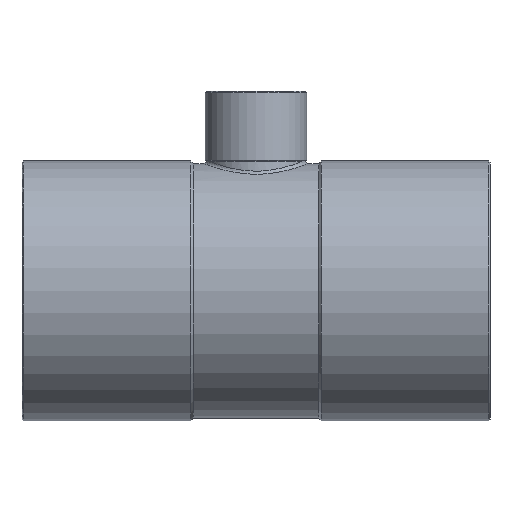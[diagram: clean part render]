
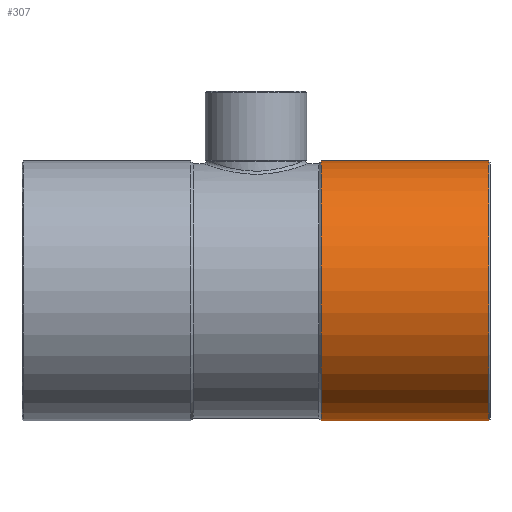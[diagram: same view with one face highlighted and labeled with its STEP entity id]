
A CAD part, top view. The second image highlights one B-rep face of the part: STEP entity #307.
In plain terms, the highlighted cylindrical face has radius 18.875 mm (diameter 37.75 mm), a partial arc.
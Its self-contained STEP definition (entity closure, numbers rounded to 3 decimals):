
#135=CARTESIAN_POINT('',(9.462,18.875,0.0));
#136=VERTEX_POINT('',#135);
#152=CARTESIAN_POINT('',(9.462,-18.875,0.));
#153=VERTEX_POINT('',#152);
#160=CARTESIAN_POINT('',(9.462,0.0,0.0));
#161=DIRECTION('',(1.0,0.0,0.0));
#162=DIRECTION('',(0.0,1.0,0.0));
#163=AXIS2_PLACEMENT_3D('',#160,#161,#162);
#164=CIRCLE('',#163,18.875);
#165=EDGE_CURVE('',#136,#153,#164,.T.);
#276=CARTESIAN_POINT('',(21.731,0.0,0.0));
#277=DIRECTION('',(1.0,0.0,0.0));
#278=DIRECTION('',(0.0,1.0,0.0));
#279=AXIS2_PLACEMENT_3D('',#276,#277,#278);
#280=CYLINDRICAL_SURFACE('',#279,18.875);
#281=CARTESIAN_POINT('',(33.8,18.875,0.));
#282=VERTEX_POINT('',#281);
#283=CARTESIAN_POINT('',(9.462,18.875,0.0));
#284=DIRECTION('',(1.0,0.0,0.0));
#285=VECTOR('',#284,24.338);
#286=LINE('',#283,#285);
#287=EDGE_CURVE('',#136,#282,#286,.T.);
#288=ORIENTED_EDGE('',*,*,#287,.F.);
#289=ORIENTED_EDGE('',*,*,#165,.T.);
#290=CARTESIAN_POINT('',(33.8,-18.875,0.));
#291=VERTEX_POINT('',#290);
#292=CARTESIAN_POINT('',(33.8,-18.875,0.));
#293=DIRECTION('',(-1.0,0.0,0.0));
#294=VECTOR('',#293,24.338);
#295=LINE('',#292,#294);
#296=EDGE_CURVE('',#291,#153,#295,.T.);
#297=ORIENTED_EDGE('',*,*,#296,.F.);
#298=CARTESIAN_POINT('',(33.8,0.0,0.0));
#299=DIRECTION('',(1.0,0.0,0.0));
#300=DIRECTION('',(0.0,-1.0,0.0));
#301=AXIS2_PLACEMENT_3D('',#298,#299,#300);
#302=CIRCLE('',#301,18.875);
#303=EDGE_CURVE('',#282,#291,#302,.T.);
#304=ORIENTED_EDGE('',*,*,#303,.F.);
#305=EDGE_LOOP('',(#288,#289,#297,#304));
#306=FACE_OUTER_BOUND('',#305,.T.);
#307=ADVANCED_FACE('',(#306),#280,.T.);
